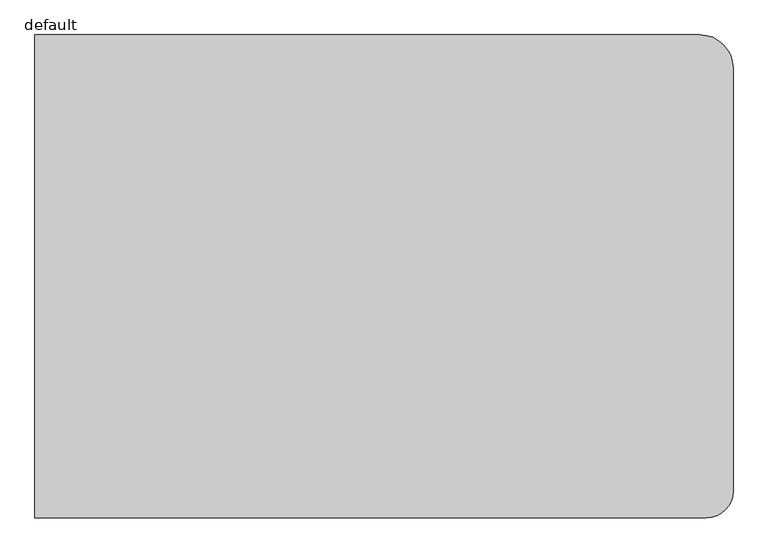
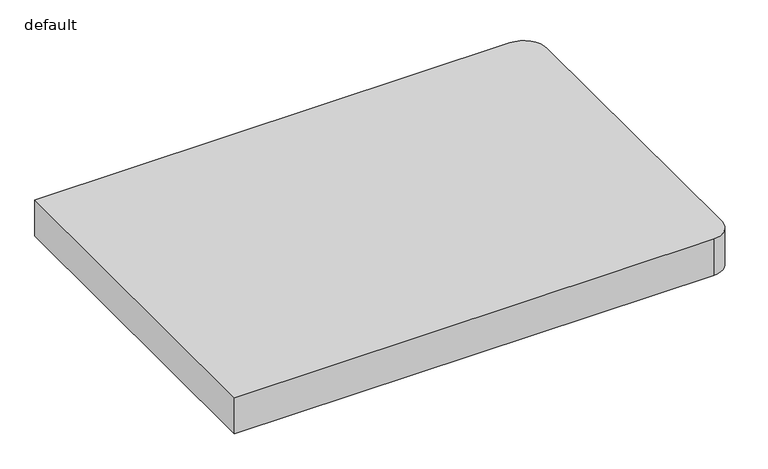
"""IFC4 building model written with IfcOpenShell, lengths in millimetres: flow terminal geometry, SP_душевой поддон_LEG : default."""

from ifc_helpers import new_model, si_unit, point, frame_2d, origin, origin_with_axes, place, context, project, spatial, polyline, circle_curve, trimmed, segment, composite_curve, outline, extrude, source, transform, mapped, element, save


def default_ee5b1c30(model_context):
    return source(origin(), model_context, "Body", "SweptSolid", [
        extrude(outline(composite_curve([segment(polyline([(0.0, 0.0), (0.0, 900.0), (1238.1, 900.0)]), True, "CONTINUOUS"), segment(trimmed(circle_curve(frame_2d((1238.1, 838.1)), 61.9), [point((1238.1, 900.0))], [point((1300.0, 838.1))], False, "CARTESIAN"), True, "CONTINUOUS"), segment(polyline([(1300.0, 838.1), (1300.0, 50.0)]), True, "CONTINUOUS"), segment(trimmed(circle_curve(frame_2d((1250.0, 50.0)), 50.0), [point((1300.0, 50.0))], [point((1250.0, 0.0))], False, "CARTESIAN"), True, "CONTINUOUS"), segment(polyline([(1250.0, 0.0), (0.0, 0.0)]), True, "CONTINUOUS")], self_intersect=False)), origin_with_axes(), (0.0, 0.0, 1.0), 100.0),
    ])


if __name__ == "__main__":
    model = new_model("IFC4")
    model_context = context("Model", 3, world=origin())
    ifc_project = project(units=[si_unit("LENGTHUNIT", "METRE", prefix="MILLI")], contexts=[model_context])
    site = spatial("IfcSite", under=ifc_project)
    building = spatial("IfcBuilding", under=site)
    placement = place(None, origin())
    default_shape = default_ee5b1c30(model_context)
    element("IfcFlowTerminal", 1, ObjectType="SP_душевой поддон_LEG : default", at=placement, inside=building, context=model_context, shape_type="MappedRepresentation", body=[
        mapped(default_shape, transform((0.0, 0.0, 0.0), x_axis=(1.0, 0.0, 0.0), y_axis=(0.0, 1.0, 0.0), z_axis=(0.0, 0.0, 1.0))),
    ])
    save(model, "model.ifc")
